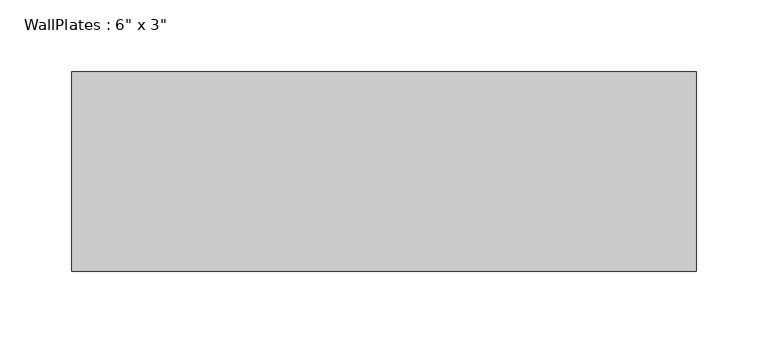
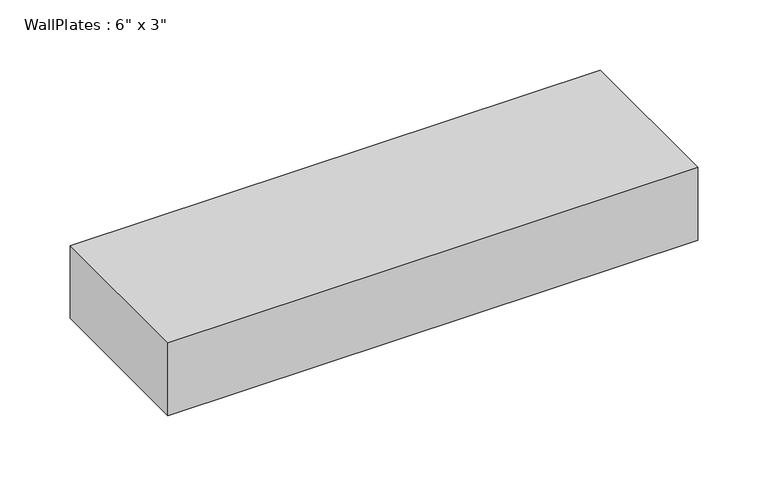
"""IFC4 building model written with IfcOpenShell, lengths in millimetres: beam geometry."""

import ifcopenshell
import ifcopenshell.guid

model = None  # the IFC model being written
_history = None  # IfcOwnerHistory: only IFC2X3 demands one
_inside = {}  # id of a spatial element -> (the spatial element, [elements in it])
_under = {}  # id of a project, library or spatial element -> (it, [spatial elements below it])
_declared = {}  # id of a project -> (the project, [libraries it declares])
_typed = {}  # id of a type object -> (the type object, [elements of that type])
_made_of = {}  # id of a material, layer set ... -> (it, [elements and type objects made of it])


def new_model(schema):
    """Start an empty IFC model of exactly this schema.

    Asked for "IFC4X3", IfcOpenShell would pick the latest addendum, in which some entities
    have other attributes; the version numbers below select the first issue.
    IFC2X3 requires an IfcOwnerHistory on every rooted entity: one is made here for all.
    """
    global model, _history
    if schema == "IFC4X3":
        model = ifcopenshell.file(schema_version=(4, 3, 0, 0))
    else:
        model = ifcopenshell.file(schema=schema)
    _inside.clear()
    _under.clear()
    _declared.clear()
    _typed.clear()
    _made_of.clear()
    _history = None
    if model.schema == "IFC2X3":
        org = make("IfcOrganization", Name="unknown")
        user = make(
            "IfcPersonAndOrganization",
            ThePerson=make("IfcPerson", FamilyName="unknown"),
            TheOrganization=org,
        )
        app = make(
            "IfcApplication",
            ApplicationDeveloper=org,
            Version="unknown",
            ApplicationFullName="unknown",
            ApplicationIdentifier="unknown",
        )
        _history = make(
            "IfcOwnerHistory",
            OwningUser=user,
            OwningApplication=app,
            ChangeAction="ADDED",
            CreationDate=0,
        )
    return model


def make(cls, **values):
    """One entity of the class cls with the attributes given. An attribute that is None is left unset."""
    return model.create_entity(
        cls, **{name: value for name, value in values.items() if value is not None}
    )


def rooted(cls, **values):
    """An entity with a GlobalId (a new one), such as an element, a storey or a relation."""
    return make(cls, GlobalId=ifcopenshell.guid.new(), OwnerHistory=_history, **values)


def si_unit(unit_type, name, prefix=None):
    """IfcSIUnit, for example si_unit("LENGTHUNIT", "METRE", prefix="MILLI")."""
    return make("IfcSIUnit", UnitType=unit_type, Prefix=prefix, Name=name)


def assignment(units):
    """IfcUnitAssignment: the units of a project."""
    return None if units is None else make("IfcUnitAssignment", Units=units)


def point(xyz):
    """IfcCartesianPoint."""
    return None if xyz is None else make("IfcCartesianPoint", Coordinates=xyz)


def direction(xyz):
    """IfcDirection."""
    return None if xyz is None else make("IfcDirection", DirectionRatios=xyz)


def frame(location, z_axis=None, x_axis=None):
    """IfcAxis2Placement3D, a coordinate frame: its origin and axes. An axis left out is left unset."""
    return make(
        "IfcAxis2Placement3D",
        Location=point(location),
        Axis=direction(z_axis),
        RefDirection=direction(x_axis),
    )


def origin():
    """The frame at (0, 0, 0) with its axes left unset."""
    return frame((0.0, 0.0, 0.0))


def place(relative_to, where):
    """IfcLocalPlacement: puts the frame where relative to a parent placement (None: the world)."""
    return make(
        "IfcLocalPlacement", PlacementRelTo=relative_to, RelativePlacement=where
    )


def context(
    kind, dimensions, precision=None, world=None, true_north=None, identifier=None
):
    """IfcGeometricRepresentationContext, for example the 3D "Model" context."""
    return make(
        "IfcGeometricRepresentationContext",
        ContextIdentifier=identifier,
        ContextType=kind,
        CoordinateSpaceDimension=dimensions,
        Precision=precision,
        WorldCoordinateSystem=world,
        TrueNorth=true_north,
    )


def project(units=None, contexts=None):
    """IfcProject with its units and contexts."""
    return rooted(
        "IfcProject",
        Name="project",
        RepresentationContexts=contexts,
        UnitsInContext=assignment(units),
    )


def spatial(cls, under=None, at=None, **own):
    """A site, building, storey or space (cls), placed at a placement, below another one or the project."""
    s = rooted(cls, ObjectPlacement=at, **own)
    if under is not None:
        _under.setdefault(under.id(), (under, []))[1].append(s)
    return s


def polyline(points):
    """IfcPolyline through the points."""
    return make("IfcPolyline", Points=[point(p) for p in points])


def outline(outer, holes=None, kind="AREA"):
    """IfcArbitraryClosedProfileDef: a profile drawn as a closed curve; with holes, ...WithVoids."""
    if holes is None:
        return make("IfcArbitraryClosedProfileDef", ProfileType=kind, OuterCurve=outer)
    return make(
        "IfcArbitraryProfileDefWithVoids",
        ProfileType=kind,
        OuterCurve=outer,
        InnerCurves=holes,
    )


def extrude(swept, where, along, depth):
    """IfcExtrudedAreaSolid: the profile swept, set in the frame where, extruded along a direction by depth."""
    return make(
        "IfcExtrudedAreaSolid",
        SweptArea=swept,
        Position=where,
        ExtrudedDirection=direction(along),
        Depth=depth,
    )


def shape(context_of_items, identifier, shape_type, items):
    """IfcShapeRepresentation: the items that make up one representation, for example the "Body"."""
    return make(
        "IfcShapeRepresentation",
        ContextOfItems=context_of_items,
        RepresentationIdentifier=identifier,
        RepresentationType=shape_type,
        Items=items,
    )


def source(mapping_origin, context_of_items, identifier, shape_type, items):
    """IfcRepresentationMap: a shape defined once, which mapped items show again and again."""
    return make(
        "IfcRepresentationMap",
        MappingOrigin=mapping_origin,
        MappedRepresentation=shape(context_of_items, identifier, shape_type, items),
    )


def transform(
    local_origin,
    x_axis=None,
    y_axis=None,
    z_axis=None,
    scale=None,
    scale2=None,
    scale3=None,
    uniform=True,
):
    """IfcCartesianTransformationOperator3D, or its non-uniform kind. x_axis, y_axis, z_axis: its Axis1, 2, 3."""
    if uniform:
        return make(
            "IfcCartesianTransformationOperator3D",
            Axis1=direction(x_axis),
            Axis2=direction(y_axis),
            LocalOrigin=point(local_origin),
            Scale=scale,
            Axis3=direction(z_axis),
        )
    return make(
        "IfcCartesianTransformationOperator3DnonUniform",
        Axis1=direction(x_axis),
        Axis2=direction(y_axis),
        LocalOrigin=point(local_origin),
        Scale=scale,
        Axis3=direction(z_axis),
        Scale2=scale2,
        Scale3=scale3,
    )


def mapped(mapping_source, mapping_target):
    """IfcMappedItem: shows the shape of a source again, moved by a transform."""
    return make(
        "IfcMappedItem", MappingSource=mapping_source, MappingTarget=mapping_target
    )


def made_of(thing, what):
    """Note that an element or type object is made of a material, layer set ...; save() writes the relation."""
    if what is not None:
        _made_of.setdefault(what.id(), (what, []))[1].append(thing)
    return thing


def element(
    cls,
    number,
    at=None,
    inside=None,
    cuts=None,
    type_object=None,
    material=None,
    context=None,
    identifier="Body",
    shape_type=None,
    held_by="IfcProductDefinitionShape",
    body=None,
    shapes=None,
    **own,
):
    """One element of the class cls, such as IfcWall. Its Tag is "e" and its number.

    at: its placement. inside: the storey or other place that contains it. cuts: it is an
    opening in that element (IfcRelVoidsElement). A single representation is given by context,
    identifier, shape_type and body (its items); several are given by shapes. held_by: the class
    of the entity that holds the representations. save() writes the other relations.
    """
    e = rooted(cls, Tag="e%d" % number, ObjectPlacement=at, **own)
    if body is not None:
        shapes = [shape(context, identifier, shape_type, body)]
    if shapes is not None:
        e.Representation = make(held_by, Representations=shapes)
    if inside is not None:
        _inside.setdefault(inside.id(), (inside, []))[1].append(e)
    if cuts is not None:
        rooted(
            "IfcRelVoidsElement", RelatingBuildingElement=cuts, RelatedOpeningElement=e
        )
    if type_object is not None:
        _typed.setdefault(type_object.id(), (type_object, []))[1].append(e)
    return made_of(e, material)


def aggregate(whole, parts):
    """IfcRelAggregates: a whole, such as a stair, and the parts it consists of."""
    return rooted("IfcRelAggregates", RelatingObject=whole, RelatedObjects=parts)


def save(model, path):
    """Write the relations noted so far, then the file.

    IfcRelAggregates (storeys below a building ...), IfcRelContainedInSpatialStructure (elements
    in a storey), IfcRelDefinesByType, IfcRelAssociatesMaterial and IfcRelDeclares: one each for
    every whole, place, type object, material and project.
    """
    for whole, parts in _under.values():
        aggregate(whole, parts)
    for where, things in _inside.values():
        rooted(
            "IfcRelContainedInSpatialStructure",
            RelatedElements=things,
            RelatingStructure=where,
        )
    for kind, things in _typed.values():
        rooted("IfcRelDefinesByType", RelatedObjects=things, RelatingType=kind)
    for what, things in _made_of.values():
        rooted("IfcRelAssociatesMaterial", RelatedObjects=things, RelatingMaterial=what)
    for by, libraries in _declared.values():
        rooted("IfcRelDeclares", RelatingContext=by, RelatedDefinitions=libraries)
    model.write(path)


def beam_02d80ba5(model_context):
    return source(origin(), model_context, "Body", "SweptSolid", [
        extrude(outline(polyline([(-218.445, -69.85), (-218.445, 69.85), (218.445, 69.85), (218.445, -69.85), (-218.445, -69.85)])), frame((0.0, 0.0, -31.75), z_axis=(0.0, 0.0, 1.0), x_axis=(1.0, 0.0, 0.0)), (0.0, 0.0, 1.0), 63.5),
    ])


if __name__ == "__main__":
    model = new_model("IFC4")
    model_context = context("Model", 3, world=origin())
    ifc_project = project(units=[si_unit("LENGTHUNIT", "METRE", prefix="MILLI")], contexts=[model_context])
    site = spatial("IfcSite", under=ifc_project)
    building = spatial("IfcBuilding", under=site)
    placement = place(None, origin())
    beam_shape = beam_02d80ba5(model_context)
    element("IfcBeam", 1, ObjectType="WallPlates : 6\" x 3\"", at=placement, inside=building, context=model_context, shape_type="MappedRepresentation", body=[
        mapped(beam_shape, transform((0.0, 0.0, 0.0), x_axis=(1.0, 0.0, 0.0), y_axis=(0.0, 1.0, 0.0), z_axis=(0.0, 0.0, 1.0))),
    ])
    save(model, "model.ifc")
